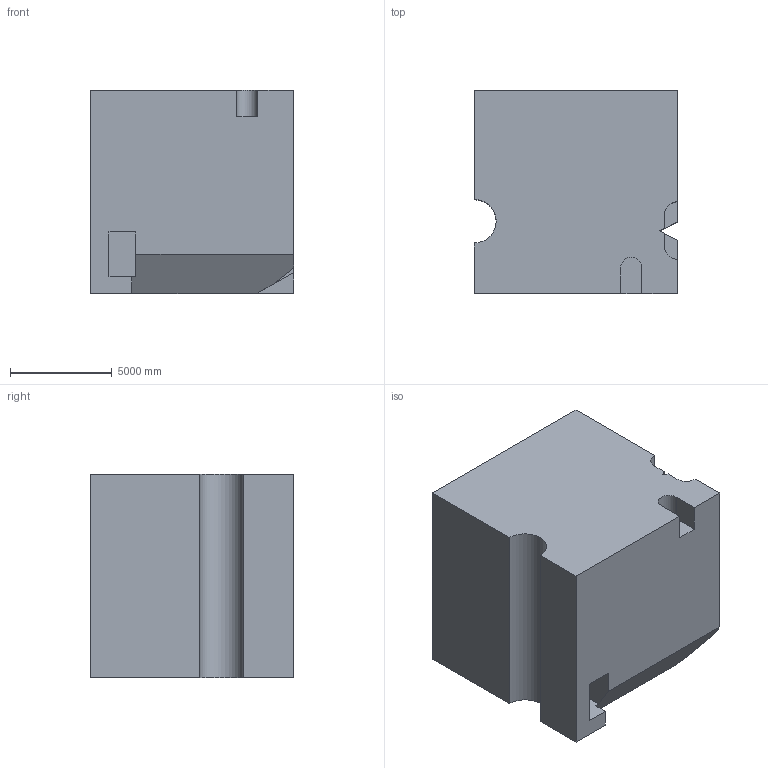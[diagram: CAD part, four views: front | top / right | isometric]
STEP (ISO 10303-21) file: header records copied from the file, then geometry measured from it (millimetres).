
FILE_DESCRIPTION (( 'STEP AP203' ), '1' );
FILE_NAME ('147.STEP', '2022-08-31T14:23:52', ( 'user' ), ( '' ), 'SwSTEP 2.0', 'SolidWorks 2021', '' );
FILE_SCHEMA (( 'CONFIG_CONTROL_DESIGN' ));
Length unit declared in the file: centimetre
Products named in the file (1): 147
Bounding box: 10000 x 10000 x 10000 mm (x, y, z)
Volume: 949093308364.9 mm3; surface area: 625806713.4 mm2
Topology: 1 solids, 1 shells, 32 faces, 90 edges, 60 vertices
Faces by surface type: plane 28, cylinder 4
Entity records: 1099 total; most frequent: CARTESIAN_POINT 183, ORIENTED_EDGE 180, DIRECTION 164, EDGE_CURVE 90, VECTOR 82, LINE 82, VERTEX_POINT 60, AXIS2_PLACEMENT_3D 41
